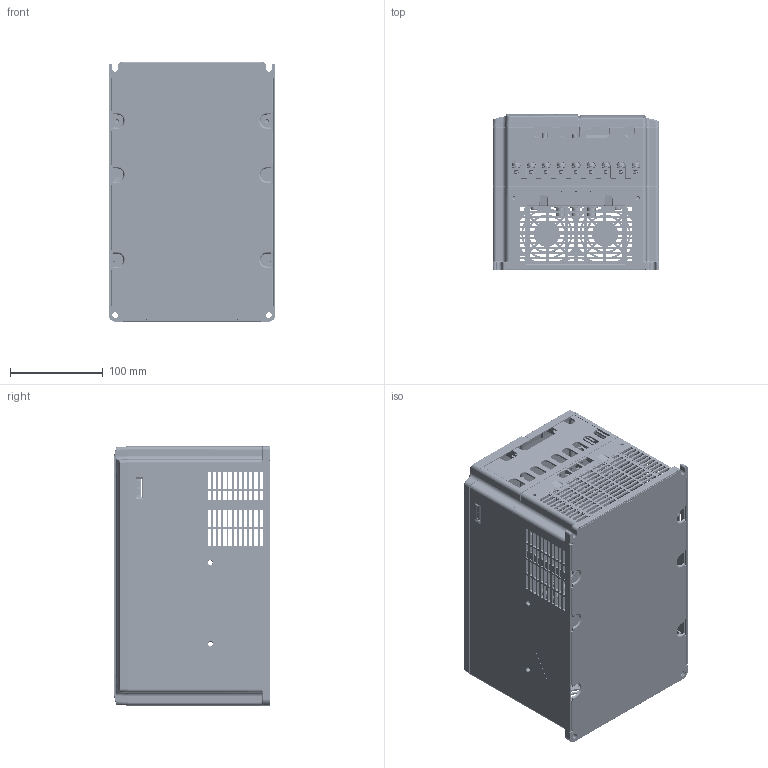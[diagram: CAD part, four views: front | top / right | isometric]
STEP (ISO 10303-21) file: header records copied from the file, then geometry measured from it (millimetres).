
FILE_DESCRIPTION((''),'2;1');
FILE_NAME('000-MVT153ZGB-520_ASM','2021-12-13T',('h2718'),(''),'CREO PARAMETRIC BY PTC INC, 2015290','CREO PARAMETRIC BY PTC INC, 2015290','');
FILE_SCHEMA(('AP203_CONFIGURATION_CONTROLLED_3D_DESIGN_OF_MECHANICAL_PARTS_AND_ASSEMBLIES_MIM_LF { 1 0 10303 403 2 1 2 }'));
Products named in the file (17): 20210466-LJ_29_9_1; 20210467-LJ_198_7; 20210470-LJ_18_4; 20210471-LJ_35_5; 20210438-LJ_4_5; 20210437-LJ_10_6; 000-SUJIAO_ASM_33_ASM_3_ASM; MD500-T4-DUANZI__V1_4_SW0001; MD500-T4-DUANZI__V1_4_8_5_1_1; MD500-T4-DUANZI__V1_4_ASM_3_ASM_ASM; 20130698-LJ_28_4; 520-KZB-20211209; 520-AJZJ-01-20211209; 001-520-ZUJIAN_ASM; 20212499; 20441162; 000-MVT153ZGB-520_ASM
Assembly tree (16 placements, depth 3):
  000-MVT153ZGB-520_ASM
    000-SUJIAO_ASM_33_ASM_3_ASM
      20210466-LJ_29_9_1
      20210467-LJ_198_7
      20210470-LJ_18_4
      20210471-LJ_35_5
      20210438-LJ_4_5
      20210437-LJ_10_6
    MD500-T4-DUANZI__V1_4_ASM_3_ASM_ASM
      MD500-T4-DUANZI__V1_4_SW0001
      MD500-T4-DUANZI__V1_4_8_5_1_1
    20130698-LJ_28_4
    001-520-ZUJIAN_ASM
      520-KZB-20211209
      520-AJZJ-01-20211209
    20212499
    20441162
Bounding box: 180 x 169 x 280 mm (x, y, z)
Volume: 757567 mm3; surface area: 797088.5 mm2
Topology: 69 solids, 83 shells, 15396 faces, 43602 edges, 28147 vertices
Faces by surface type: plane 9304, cylinder 3990, torus 732, cone 599, bspline 578, extrusion 106, sphere 77, revolution 10
Entity records: 727967 total; most frequent: CARTESIAN_POINT 164883, ORIENTED_EDGE 86632, DIRECTION 79017, PRESENTATION_STYLE_ASSIGNMENT 47748, STYLED_ITEM 44010, CURVE_STYLE 43793, EDGE_CURVE 43317, VECTOR 30570
